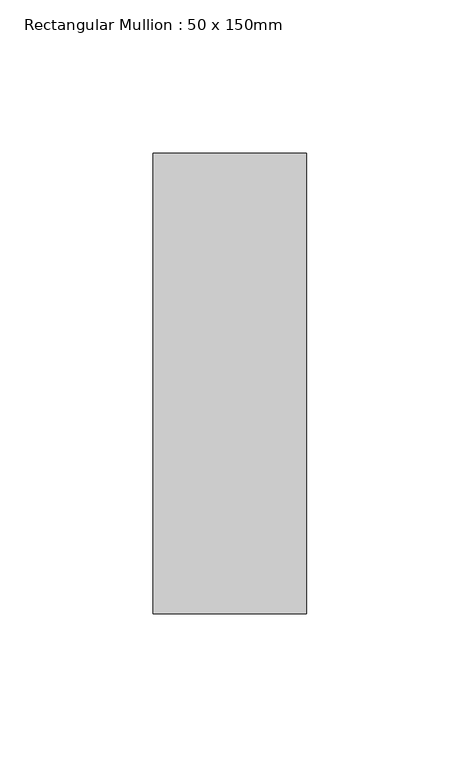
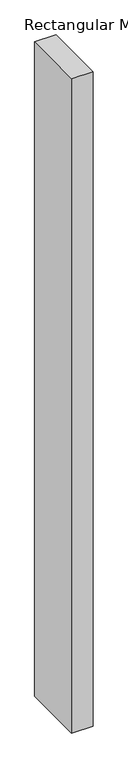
"""IFC4 building model written with IfcOpenShell, lengths in millimetres: member geometry, Rectangular Mullion : 50 x 150mm."""

from ifc_helpers import new_model, si_unit, frame, origin, place, context, project, spatial, polyline, outline, extrude, source, transform, mapped, element, save


def rectangular_mullion_50_x_150mm_8038eae2(model_context):
    return source(origin(), model_context, "Body", "SweptSolid", [
        extrude(outline(polyline([(0.0, 75.0), (0.0, -75.0), (-50.0, -75.0), (-50.0, 75.0), (0.0, 75.0)])), frame((0.0, 0.0, -1624.5361753), z_axis=(0.0, 0.0, 1.0), x_axis=(1.0, 0.0, 0.0)), (0.0, 0.0, 1.0), 1624.5361753),
    ])


if __name__ == "__main__":
    model = new_model("IFC4")
    model_context = context("Model", 3, world=origin())
    ifc_project = project(units=[si_unit("LENGTHUNIT", "METRE", prefix="MILLI")], contexts=[model_context])
    site = spatial("IfcSite", under=ifc_project)
    building = spatial("IfcBuilding", under=site)
    placement = place(None, origin())
    rectangular_mullion_50_x_150mm_shape = rectangular_mullion_50_x_150mm_8038eae2(model_context)
    element("IfcMember", 1, ObjectType="Rectangular Mullion : 50 x 150mm", at=placement, inside=building, context=model_context, shape_type="MappedRepresentation", body=[
        mapped(rectangular_mullion_50_x_150mm_shape, transform((0.0, 0.0, 0.0), x_axis=(1.0, 0.0, 0.0), y_axis=(0.0, 1.0, 0.0), z_axis=(0.0, 0.0, 1.0))),
    ])
    save(model, "model.ifc")
